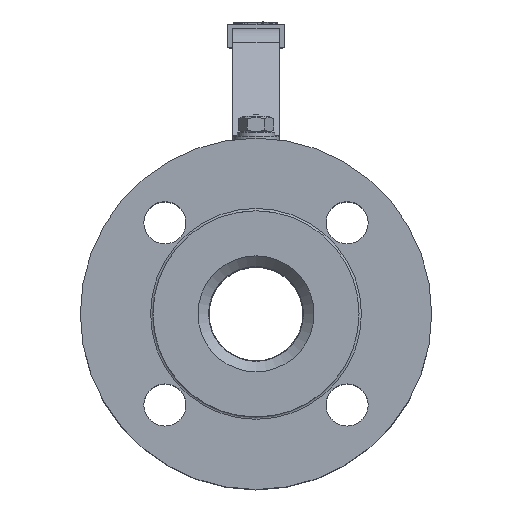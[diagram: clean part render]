
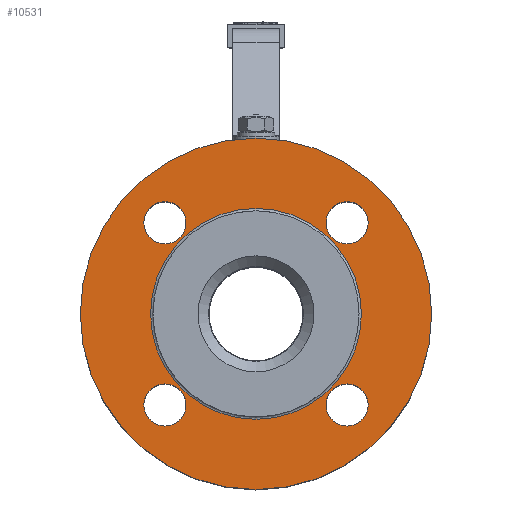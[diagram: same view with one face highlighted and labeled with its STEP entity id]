
A CAD part, top view. The second image highlights one B-rep face of the part: STEP entity #10531.
In plain terms, the highlighted planar face has unit normal (0, 0, 1).
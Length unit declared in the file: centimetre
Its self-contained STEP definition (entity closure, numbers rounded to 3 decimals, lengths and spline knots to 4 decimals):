
#169=FACE_BOUND('',#1521,.T.);
#170=FACE_BOUND('',#1522,.T.);
#171=FACE_BOUND('',#1523,.T.);
#172=FACE_BOUND('',#1524,.T.);
#173=FACE_BOUND('',#1525,.T.);
#834=FACE_OUTER_BOUND('',#1520,.T.);
#1520=EDGE_LOOP('',(#8674));
#1521=EDGE_LOOP('',(#8675));
#1522=EDGE_LOOP('',(#8676));
#1523=EDGE_LOOP('',(#8677));
#1524=EDGE_LOOP('',(#8678));
#1525=EDGE_LOOP('',(#8679));
#3953=CIRCLE('',#11304,4.5);
#3956=CIRCLE('',#11309,7.5);
#3957=CIRCLE('',#11310,0.9);
#3958=CIRCLE('',#11311,0.9);
#3959=CIRCLE('',#11312,0.9);
#3960=CIRCLE('',#11313,0.9);
#4858=VERTEX_POINT('',#16796);
#4861=VERTEX_POINT('',#16804);
#4862=VERTEX_POINT('',#16806);
#4863=VERTEX_POINT('',#16808);
#4864=VERTEX_POINT('',#16810);
#4865=VERTEX_POINT('',#16812);
#6162=EDGE_CURVE('',#4858,#4858,#3953,.T.);
#6165=EDGE_CURVE('',#4861,#4861,#3956,.T.);
#6166=EDGE_CURVE('',#4862,#4862,#3957,.T.);
#6167=EDGE_CURVE('',#4863,#4863,#3958,.T.);
#6168=EDGE_CURVE('',#4864,#4864,#3959,.T.);
#6169=EDGE_CURVE('',#4865,#4865,#3960,.T.);
#8674=ORIENTED_EDGE('',*,*,#6165,.F.);
#8675=ORIENTED_EDGE('',*,*,#6166,.T.);
#8676=ORIENTED_EDGE('',*,*,#6167,.T.);
#8677=ORIENTED_EDGE('',*,*,#6168,.T.);
#8678=ORIENTED_EDGE('',*,*,#6169,.T.);
#8679=ORIENTED_EDGE('',*,*,#6162,.F.);
#9462=PLANE('',#11308);
#10531=ADVANCED_FACE('',(#834,#169,#170,#171,#172,#173),#9462,.T.);
#11304=AXIS2_PLACEMENT_3D('',#16797,#13774,#13775);
#11308=AXIS2_PLACEMENT_3D('',#16803,#13782,#13783);
#11309=AXIS2_PLACEMENT_3D('',#16805,#13784,#13785);
#11310=AXIS2_PLACEMENT_3D('',#16807,#13786,#13787);
#11311=AXIS2_PLACEMENT_3D('',#16809,#13788,#13789);
#11312=AXIS2_PLACEMENT_3D('',#16811,#13790,#13791);
#11313=AXIS2_PLACEMENT_3D('',#16813,#13792,#13793);
#13774=DIRECTION('center_axis',(0.,0.,
1.));
#13775=DIRECTION('ref_axis',(0.,-1.,0.));
#13782=DIRECTION('center_axis',(0.,0.,
1.));
#13783=DIRECTION('ref_axis',(0.,1.,0.));
#13784=DIRECTION('center_axis',(0.,0.,
-1.));
#13785=DIRECTION('ref_axis',(0.,-1.,0.));
#13786=DIRECTION('center_axis',(0.,0.,
-1.));
#13787=DIRECTION('ref_axis',(0.,-1.,0.));
#13788=DIRECTION('center_axis',(0.,0.,
-1.));
#13789=DIRECTION('ref_axis',(1.,0.,0.));
#13790=DIRECTION('center_axis',(0.,0.,
-1.));
#13791=DIRECTION('ref_axis',(0.,1.,0.));
#13792=DIRECTION('center_axis',(0.,0.,
-1.));
#13793=DIRECTION('ref_axis',(-1.,0.,0.));
#16796=CARTESIAN_POINT('',(10.0401,4.9726,5.1));
#16797=CARTESIAN_POINT('Origin',(10.0401,0.4726,5.1));
#16803=CARTESIAN_POINT('Origin',(10.0401,0.4726,5.1));
#16804=CARTESIAN_POINT('',(10.0401,7.9726,5.1));
#16805=CARTESIAN_POINT('Origin',(10.0401,0.4726,5.1));
#16806=CARTESIAN_POINT('',(6.151,-2.5165,5.1));
#16807=CARTESIAN_POINT('Origin',(6.151,-3.4165,5.1));
#16808=CARTESIAN_POINT('',(13.0292,-3.4165,5.1));
#16809=CARTESIAN_POINT('Origin',(13.9292,-3.4165,5.1));
#16810=CARTESIAN_POINT('',(13.9292,3.4617,5.1));
#16811=CARTESIAN_POINT('Origin',(13.9292,4.3617,5.1));
#16812=CARTESIAN_POINT('',(7.051,4.3617,5.1));
#16813=CARTESIAN_POINT('Origin',(6.151,4.3617,5.1));
